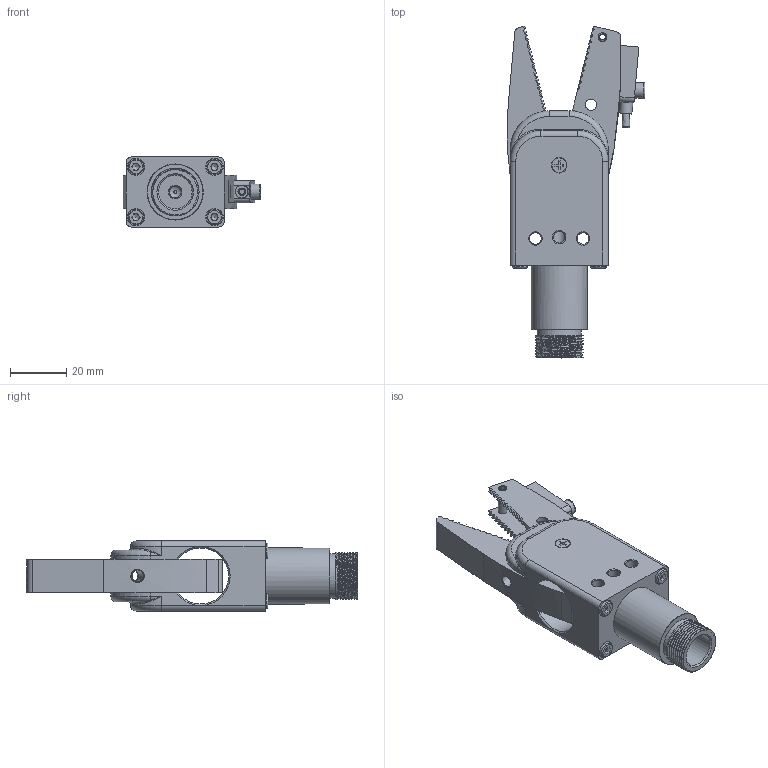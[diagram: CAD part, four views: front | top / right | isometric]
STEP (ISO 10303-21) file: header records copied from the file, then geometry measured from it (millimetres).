
FILE_DESCRIPTION(/* description */ (''),/* implementation_level */ '2;1');
FILE_NAME(/* name */ 'GR20A-20-CN.stp',/* time_stamp */ '2023-03-08T14:07:56+08:00',/* author */ (''),/* organization */ (''),/* preprocessor_version */ 'ST-DEVELOPER v16',/* originating_system */ 'SIEMENS PLM Software NX 10.0',/* authorisation */ '');
FILE_SCHEMA (('AUTOMOTIVE_DESIGN { 1 0 10303 214 3 1 1 1 }'));
Length unit declared in the file: millimetre
Products named in the file (1): Admi115498B06j2m
Bounding box: 49.21 x 118.39 x 25 mm (x, y, z)
Volume: 44581 mm3; surface area: 24059.2 mm2
Topology: 2 solids, 16 shells, 1241 faces, 3174 edges, 2060 vertices
Faces by surface type: plane 948, cylinder 138, cone 111, bspline 24, torus 20
Full cylindrical faces by diameter (mm): 2.5 x5, 3 x30, 3.2 x1, 3.4 x5, 3.541 x4, 4 x8, 4.038 x2, 4.2 x7, 4.3 x1, 4.5 x1, 5 x4, 5.2 x1, 5.5 x5, 5.54 x1, 6 x4, 7.8 x2, 12 x1, 15.8 x1, 20 x2
Entity records: 46442 total; most frequent: CARTESIAN_POINT 8831, ORIENTED_EDGE 5792, DIRECTION 5650, EDGE_CURVE 2896, LINE 2364, VECTOR 2364, VERTEX_POINT 1995, AXIS2_PLACEMENT_3D 1643
